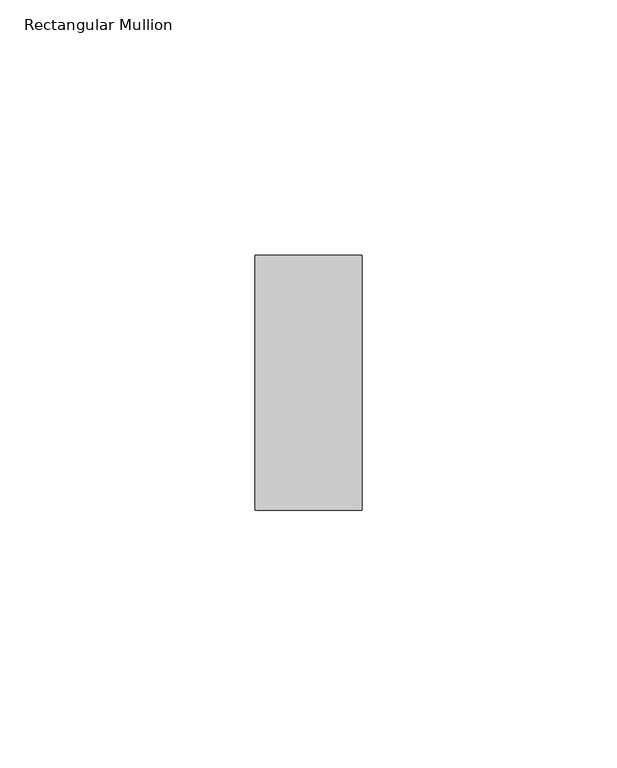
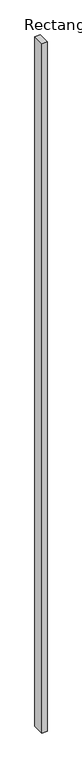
"""IFC4 building model written with IfcOpenShell, lengths in millimetres: member geometry, Rectangular Mullion : RSen_21_CWM_support profile - 21x50 Multi - right_gen_duco projects."""

from ifc_helpers import new_model, si_unit, frame, origin, place, context, project, spatial, polyline, outline, extrude, source, transform, mapped, element, save


def rectangular_mullion_6e08dc26(model_context):
    return source(origin(), model_context, "Body", "SweptSolid", [
        extrude(outline(polyline([(-71.0, 1.0), (-50.0, 1.0), (-50.0, -49.0), (-71.0, -49.0), (-71.0, 1.0)])), frame((0.0, 0.0, -3000.0), z_axis=(0.0, 0.0, 1.0), x_axis=(1.0, 0.0, 0.0)), (0.0, 0.0, 1.0), 3000.0),
    ])


if __name__ == "__main__":
    model = new_model("IFC4")
    model_context = context("Model", 3, world=origin())
    ifc_project = project(units=[si_unit("LENGTHUNIT", "METRE", prefix="MILLI")], contexts=[model_context])
    site = spatial("IfcSite", under=ifc_project)
    building = spatial("IfcBuilding", under=site)
    placement = place(None, origin())
    rectangular_mullion_shape = rectangular_mullion_6e08dc26(model_context)
    element("IfcMember", 1, ObjectType="Rectangular Mullion : RSen_21_CWM_support profile - 21x50 Multi - right_gen_duco projects", at=placement, inside=building, context=model_context, shape_type="MappedRepresentation", body=[
        mapped(rectangular_mullion_shape, transform((0.0, 0.0, 0.0), x_axis=(1.0, 0.0, 0.0), y_axis=(0.0, 1.0, 0.0), z_axis=(0.0, 0.0, 1.0))),
    ])
    save(model, "model.ifc")
